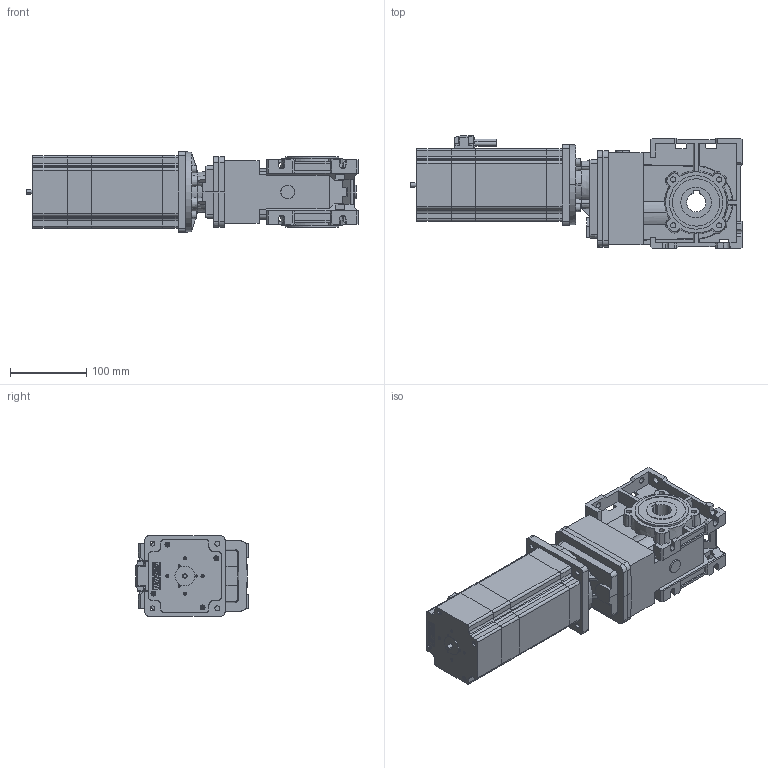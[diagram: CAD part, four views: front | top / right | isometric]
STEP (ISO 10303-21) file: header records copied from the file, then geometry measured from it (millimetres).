
FILE_DESCRIPTION (( 'STEP AP214' ), '1' );
FILE_NAME ('CMB502+BL200.48.95.STEP', '2021-05-05T08:37:59', ( '' ), ( '' ), 'SwSTEP 2.0', 'SolidWorks 2020', '' );
FILE_SCHEMA (( 'AUTOMOTIVE_DESIGN' ));
Length unit declared in the file: millimetre
Products named in the file (4): 6SCHHM618ZC; CMB502+BL200.48.95; BL200.48.95 INT; CMB502_U_D25_71B14.3d
Assembly tree (6 placements, depth 2):
  CMB502+BL200.48.95
    CMB502_U_D25_71B14.3d
    BL200.48.95 INT
    6SCHHM618ZC  x4
Bounding box: 434.5 x 147.5 x 105 mm (x, y, z)
Volume: 3425096.8 mm3; surface area: 350821.5 mm2
Topology: 11 solids, 16 shells, 1303 faces, 3472 edges, 2248 vertices
Faces by surface type: plane 755, cylinder 264, cone 232, bspline 28, torus 24
Entity records: 41900 total; most frequent: CARTESIAN_POINT 9944, ORIENTED_EDGE 6628, DIRECTION 6378, EDGE_CURVE 3314, VERTEX_POINT 2170, AXIS2_PLACEMENT_3D 2141, LINE 2096, VECTOR 2096
